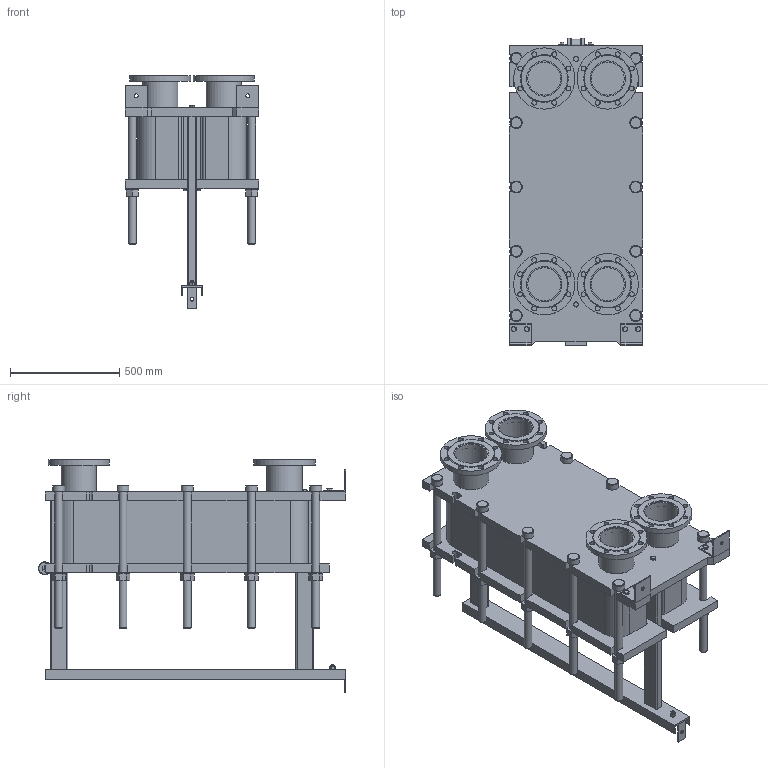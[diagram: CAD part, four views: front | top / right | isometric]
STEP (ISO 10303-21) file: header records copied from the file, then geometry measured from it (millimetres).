
FILE_DESCRIPTION(/* description */ (''),/* implementation_level */ '2;1');
FILE_NAME(/* name */ 'C:\Users\zhuro\Desktop\ENCO\TO\ЭН-041\ЭН-0,5-041-84-1.stp',/* time_stamp */ '2022-06-06T10:56:34+03:00',/* author */ ('zhuro'),/* organization */ (''),/* preprocessor_version */ 'ST-DEVELOPER v18.1',/* originating_system */ 'Autodesk Inventor 2022',/* authorisation */ '');
FILE_SCHEMA (('AUTOMOTIVE_DESIGN { 1 0 10303 214 3 1 1 }'));
Length unit declared in the file: millimetre
Products named in the file (1): ЭН-0,5-041-84-1
Bounding box: 610 x 1406.5 x 1070 mm (x, y, z)
Volume: 242343114.4 mm3; surface area: 8671724.2 mm2
Topology: 52 solids, 52 shells, 711 faces, 1696 edges, 1094 vertices
Faces by surface type: plane 487, cylinder 177, cone 41, torus 6
Full cylindrical faces by diameter (mm): 8 x4, 10 x2, 16 x8, 18 x3, 22 x32, 36 x24, 50 x1, 54 x10, 60 x12, 151 x4, 161 x8, 280 x4
Entity records: 22667 total; most frequent: CARTESIAN_POINT 5230, DIRECTION 3644, ORIENTED_EDGE 3392, EDGE_CURVE 1696, AXIS2_PLACEMENT_3D 1272, LINE 1100, VECTOR 1100, VERTEX_POINT 1094
